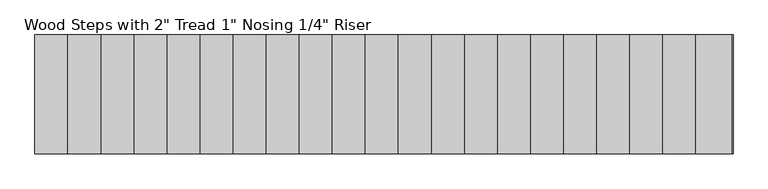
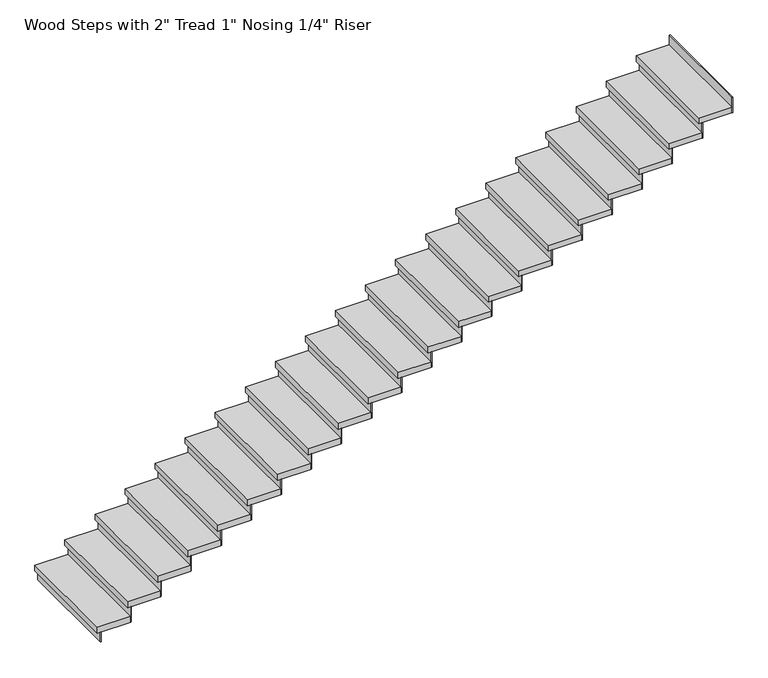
"""IFC4 building model written with IfcOpenShell, lengths in millimetres: stair flight geometry."""

from ifc_helpers import new_model, si_unit, frame, origin, origin_with_axes, place, context, project, spatial, polyline, outline, extrude, source, transform, mapped, element, save


def stair_flight_0de24507(model_context):
    return source(origin(), model_context, "Body", "SweptSolid", [
        extrude(outline(polyline([(-11443.6145607, 6523.6177722), (-11449.9645607, 6523.6177722), (-11449.9645607, 7438.0177722), (-11443.6145607, 7438.0177722), (-11443.6145607, 6523.6177722)])), origin_with_axes(), (0.0, 0.0, 1.0), 87.7454545),
        extrude(outline(polyline([(-11195.9645607, 7438.0177722), (-11195.9645607, 6523.6177722), (-11475.3645607, 6523.6177722), (-11475.3645607, 7438.0177722), (-11195.9645607, 7438.0177722)])), frame((0.0, 0.0, 87.7454545), z_axis=(0.0, 0.0, 1.0), x_axis=(1.0, 0.0, 0.0)), (0.0, 0.0, 1.0), 50.8),
        extrude(outline(polyline([(-11189.6145607, 6523.6177722), (-11195.9645607, 6523.6177722), (-11195.9645607, 7438.0177722), (-11189.6145607, 7438.0177722), (-11189.6145607, 6523.6177722)])), frame((0.0, 0.0, 87.7454545), z_axis=(0.0, 0.0, 1.0), x_axis=(1.0, 0.0, 0.0)), (0.0, 0.0, 1.0), 138.5454545),
        extrude(outline(polyline([(-10941.9645607, 7438.0177722), (-10941.9645607, 6523.6177722), (-11221.3645607, 6523.6177722), (-11221.3645607, 7438.0177722), (-10941.9645607, 7438.0177722)])), frame((0.0, 0.0, 226.2909091), z_axis=(0.0, 0.0, 1.0), x_axis=(1.0, 0.0, 0.0)), (0.0, 0.0, 1.0), 50.8),
        extrude(outline(polyline([(-10935.6145607, 6523.6177722), (-10941.9645607, 6523.6177722), (-10941.9645607, 7438.0177722), (-10935.6145607, 7438.0177722), (-10935.6145607, 6523.6177722)])), frame((0.0, 0.0, 226.2909091), z_axis=(0.0, 0.0, 1.0), x_axis=(1.0, 0.0, 0.0)), (0.0, 0.0, 1.0), 138.5454545),
        extrude(outline(polyline([(-10687.9645607, 7438.0177722), (-10687.9645607, 6523.6177722), (-10967.3645607, 6523.6177722), (-10967.3645607, 7438.0177722), (-10687.9645607, 7438.0177722)])), frame((0.0, 0.0, 364.8363636), z_axis=(0.0, 0.0, 1.0), x_axis=(1.0, 0.0, 0.0)), (0.0, 0.0, 1.0), 50.8),
        extrude(outline(polyline([(-10681.6145607, 6523.6177722), (-10687.9645607, 6523.6177722), (-10687.9645607, 7438.0177722), (-10681.6145607, 7438.0177722), (-10681.6145607, 6523.6177722)])), frame((0.0, 0.0, 364.8363636), z_axis=(0.0, 0.0, 1.0), x_axis=(1.0, 0.0, 0.0)), (0.0, 0.0, 1.0), 138.5454545),
        extrude(outline(polyline([(-10433.9645607, 7438.0177722), (-10433.9645607, 6523.6177722), (-10713.3645607, 6523.6177722), (-10713.3645607, 7438.0177722), (-10433.9645607, 7438.0177722)])), frame((0.0, 0.0, 503.3818182), z_axis=(0.0, 0.0, 1.0), x_axis=(1.0, 0.0, 0.0)), (0.0, 0.0, 1.0), 50.8),
        extrude(outline(polyline([(-10427.6145607, 6523.6177722), (-10433.9645607, 6523.6177722), (-10433.9645607, 7438.0177722), (-10427.6145607, 7438.0177722), (-10427.6145607, 6523.6177722)])), frame((0.0, 0.0, 503.3818182), z_axis=(0.0, 0.0, 1.0), x_axis=(1.0, 0.0, 0.0)), (0.0, 0.0, 1.0), 138.5454545),
        extrude(outline(polyline([(-10179.9645607, 7438.0177722), (-10179.9645607, 6523.6177722), (-10459.3645607, 6523.6177722), (-10459.3645607, 7438.0177722), (-10179.9645607, 7438.0177722)])), frame((0.0, 0.0, 641.9272727), z_axis=(0.0, 0.0, 1.0), x_axis=(1.0, 0.0, 0.0)), (0.0, 0.0, 1.0), 50.8),
        extrude(outline(polyline([(-10173.6145607, 6523.6177722), (-10179.9645607, 6523.6177722), (-10179.9645607, 7438.0177722), (-10173.6145607, 7438.0177722), (-10173.6145607, 6523.6177722)])), frame((0.0, 0.0, 641.9272727), z_axis=(0.0, 0.0, 1.0), x_axis=(1.0, 0.0, 0.0)), (0.0, 0.0, 1.0), 138.5454545),
        extrude(outline(polyline([(-9925.9645607, 7438.0177722), (-9925.9645607, 6523.6177722), (-10205.3645607, 6523.6177722), (-10205.3645607, 7438.0177722), (-9925.9645607, 7438.0177722)])), frame((0.0, 0.0, 780.4727273), z_axis=(0.0, 0.0, 1.0), x_axis=(1.0, 0.0, 0.0)), (0.0, 0.0, 1.0), 50.8),
        extrude(outline(polyline([(-9919.6145607, 6523.6177722), (-9925.9645607, 6523.6177722), (-9925.9645607, 7438.0177722), (-9919.6145607, 7438.0177722), (-9919.6145607, 6523.6177722)])), frame((0.0, 0.0, 780.4727273), z_axis=(0.0, 0.0, 1.0), x_axis=(1.0, 0.0, 0.0)), (0.0, 0.0, 1.0), 138.5454545),
        extrude(outline(polyline([(-9671.9645607, 7438.0177722), (-9671.9645607, 6523.6177722), (-9951.3645607, 6523.6177722), (-9951.3645607, 7438.0177722), (-9671.9645607, 7438.0177722)])), frame((0.0, 0.0, 919.0181818), z_axis=(0.0, 0.0, 1.0), x_axis=(1.0, 0.0, 0.0)), (0.0, 0.0, 1.0), 50.8),
        extrude(outline(polyline([(-9665.6145607, 6523.6177722), (-9671.9645607, 6523.6177722), (-9671.9645607, 7438.0177722), (-9665.6145607, 7438.0177722), (-9665.6145607, 6523.6177722)])), frame((0.0, 0.0, 919.0181818), z_axis=(0.0, 0.0, 1.0), x_axis=(1.0, 0.0, 0.0)), (0.0, 0.0, 1.0), 138.5454545),
        extrude(outline(polyline([(-9417.9645607, 7438.0177722), (-9417.9645607, 6523.6177722), (-9697.3645607, 6523.6177722), (-9697.3645607, 7438.0177722), (-9417.9645607, 7438.0177722)])), frame((0.0, 0.0, 1057.5636364), z_axis=(0.0, 0.0, 1.0), x_axis=(1.0, 0.0, 0.0)), (0.0, 0.0, 1.0), 50.8),
        extrude(outline(polyline([(-9411.6145607, 6523.6177722), (-9417.9645607, 6523.6177722), (-9417.9645607, 7438.0177722), (-9411.6145607, 7438.0177722), (-9411.6145607, 6523.6177722)])), frame((0.0, 0.0, 1057.5636364), z_axis=(0.0, 0.0, 1.0), x_axis=(1.0, 0.0, 0.0)), (0.0, 0.0, 1.0), 138.5454545),
        extrude(outline(polyline([(-9163.9645607, 7438.0177722), (-9163.9645607, 6523.6177722), (-9443.3645607, 6523.6177722), (-9443.3645607, 7438.0177722), (-9163.9645607, 7438.0177722)])), frame((0.0, 0.0, 1196.1090909), z_axis=(0.0, 0.0, 1.0), x_axis=(1.0, 0.0, 0.0)), (0.0, 0.0, 1.0), 50.8),
        extrude(outline(polyline([(-9157.6145607, 6523.6177722), (-9163.9645607, 6523.6177722), (-9163.9645607, 7438.0177722), (-9157.6145607, 7438.0177722), (-9157.6145607, 6523.6177722)])), frame((0.0, 0.0, 1196.1090909), z_axis=(0.0, 0.0, 1.0), x_axis=(1.0, 0.0, 0.0)), (0.0, 0.0, 1.0), 138.5454545),
        extrude(outline(polyline([(-8909.9645607, 7438.0177722), (-8909.9645607, 6523.6177722), (-9189.3645607, 6523.6177722), (-9189.3645607, 7438.0177722), (-8909.9645607, 7438.0177722)])), frame((0.0, 0.0, 1334.6545455), z_axis=(0.0, 0.0, 1.0), x_axis=(1.0, 0.0, 0.0)), (0.0, 0.0, 1.0), 50.8),
        extrude(outline(polyline([(-8903.6145607, 6523.6177722), (-8909.9645607, 6523.6177722), (-8909.9645607, 7438.0177722), (-8903.6145607, 7438.0177722), (-8903.6145607, 6523.6177722)])), frame((0.0, 0.0, 1334.6545455), z_axis=(0.0, 0.0, 1.0), x_axis=(1.0, 0.0, 0.0)), (0.0, 0.0, 1.0), 138.5454545),
        extrude(outline(polyline([(-8655.9645607, 7438.0177722), (-8655.9645607, 6523.6177722), (-8935.3645607, 6523.6177722), (-8935.3645607, 7438.0177722), (-8655.9645607, 7438.0177722)])), frame((0.0, 0.0, 1473.2), z_axis=(0.0, 0.0, 1.0), x_axis=(1.0, 0.0, 0.0)), (0.0, 0.0, 1.0), 50.8),
        extrude(outline(polyline([(-8649.6145607, 6523.6177722), (-8655.9645607, 6523.6177722), (-8655.9645607, 7438.0177722), (-8649.6145607, 7438.0177722), (-8649.6145607, 6523.6177722)])), frame((0.0, 0.0, 1473.2), z_axis=(0.0, 0.0, 1.0), x_axis=(1.0, 0.0, 0.0)), (0.0, 0.0, 1.0), 138.5454545),
        extrude(outline(polyline([(-8401.9645607, 7438.0177722), (-8401.9645607, 6523.6177722), (-8681.3645607, 6523.6177722), (-8681.3645607, 7438.0177722), (-8401.9645607, 7438.0177722)])), frame((0.0, 0.0, 1611.7454545), z_axis=(0.0, 0.0, 1.0), x_axis=(1.0, 0.0, 0.0)), (0.0, 0.0, 1.0), 50.8),
        extrude(outline(polyline([(-8395.6145607, 6523.6177722), (-8401.9645607, 6523.6177722), (-8401.9645607, 7438.0177722), (-8395.6145607, 7438.0177722), (-8395.6145607, 6523.6177722)])), frame((0.0, 0.0, 1611.7454545), z_axis=(0.0, 0.0, 1.0), x_axis=(1.0, 0.0, 0.0)), (0.0, 0.0, 1.0), 138.5454545),
        extrude(outline(polyline([(-8147.9645607, 7438.0177722), (-8147.9645607, 6523.6177722), (-8427.3645607, 6523.6177722), (-8427.3645607, 7438.0177722), (-8147.9645607, 7438.0177722)])), frame((0.0, 0.0, 1750.2909091), z_axis=(0.0, 0.0, 1.0), x_axis=(1.0, 0.0, 0.0)), (0.0, 0.0, 1.0), 50.8),
        extrude(outline(polyline([(-8141.6145607, 6523.6177722), (-8147.9645607, 6523.6177722), (-8147.9645607, 7438.0177722), (-8141.6145607, 7438.0177722), (-8141.6145607, 6523.6177722)])), frame((0.0, 0.0, 1750.2909091), z_axis=(0.0, 0.0, 1.0), x_axis=(1.0, 0.0, 0.0)), (0.0, 0.0, 1.0), 138.5454545),
        extrude(outline(polyline([(-7893.9645607, 7438.0177722), (-7893.9645607, 6523.6177722), (-8173.3645607, 6523.6177722), (-8173.3645607, 7438.0177722), (-7893.9645607, 7438.0177722)])), frame((0.0, 0.0, 1888.8363636), z_axis=(0.0, 0.0, 1.0), x_axis=(1.0, 0.0, 0.0)), (0.0, 0.0, 1.0), 50.8),
        extrude(outline(polyline([(-7887.6145607, 6523.6177722), (-7893.9645607, 6523.6177722), (-7893.9645607, 7438.0177722), (-7887.6145607, 7438.0177722), (-7887.6145607, 6523.6177722)])), frame((0.0, 0.0, 1888.8363636), z_axis=(0.0, 0.0, 1.0), x_axis=(1.0, 0.0, 0.0)), (0.0, 0.0, 1.0), 138.5454545),
        extrude(outline(polyline([(-7639.9645607, 7438.0177722), (-7639.9645607, 6523.6177722), (-7919.3645607, 6523.6177722), (-7919.3645607, 7438.0177722), (-7639.9645607, 7438.0177722)])), frame((0.0, 0.0, 2027.3818182), z_axis=(0.0, 0.0, 1.0), x_axis=(1.0, 0.0, 0.0)), (0.0, 0.0, 1.0), 50.8),
        extrude(outline(polyline([(-7633.6145607, 6523.6177722), (-7639.9645607, 6523.6177722), (-7639.9645607, 7438.0177722), (-7633.6145607, 7438.0177722), (-7633.6145607, 6523.6177722)])), frame((0.0, 0.0, 2027.3818182), z_axis=(0.0, 0.0, 1.0), x_axis=(1.0, 0.0, 0.0)), (0.0, 0.0, 1.0), 138.5454545),
        extrude(outline(polyline([(-7385.9645607, 7438.0177722), (-7385.9645607, 6523.6177722), (-7665.3645607, 6523.6177722), (-7665.3645607, 7438.0177722), (-7385.9645607, 7438.0177722)])), frame((0.0, 0.0, 2165.9272727), z_axis=(0.0, 0.0, 1.0), x_axis=(1.0, 0.0, 0.0)), (0.0, 0.0, 1.0), 50.8),
        extrude(outline(polyline([(-7379.6145607, 6523.6177722), (-7385.9645607, 6523.6177722), (-7385.9645607, 7438.0177722), (-7379.6145607, 7438.0177722), (-7379.6145607, 6523.6177722)])), frame((0.0, 0.0, 2165.9272727), z_axis=(0.0, 0.0, 1.0), x_axis=(1.0, 0.0, 0.0)), (0.0, 0.0, 1.0), 138.5454545),
        extrude(outline(polyline([(-7131.9645607, 7438.0177722), (-7131.9645607, 6523.6177722), (-7411.3645607, 6523.6177722), (-7411.3645607, 7438.0177722), (-7131.9645607, 7438.0177722)])), frame((0.0, 0.0, 2304.4727273), z_axis=(0.0, 0.0, 1.0), x_axis=(1.0, 0.0, 0.0)), (0.0, 0.0, 1.0), 50.8),
        extrude(outline(polyline([(-7125.6145607, 6523.6177722), (-7131.9645607, 6523.6177722), (-7131.9645607, 7438.0177722), (-7125.6145607, 7438.0177722), (-7125.6145607, 6523.6177722)])), frame((0.0, 0.0, 2304.4727273), z_axis=(0.0, 0.0, 1.0), x_axis=(1.0, 0.0, 0.0)), (0.0, 0.0, 1.0), 138.5454545),
        extrude(outline(polyline([(-6877.9645607, 7438.0177722), (-6877.9645607, 6523.6177722), (-7157.3645607, 6523.6177722), (-7157.3645607, 7438.0177722), (-6877.9645607, 7438.0177722)])), frame((0.0, 0.0, 2443.0181818), z_axis=(0.0, 0.0, 1.0), x_axis=(1.0, 0.0, 0.0)), (0.0, 0.0, 1.0), 50.8),
        extrude(outline(polyline([(-6871.6145607, 6523.6177722), (-6877.9645607, 6523.6177722), (-6877.9645607, 7438.0177722), (-6871.6145607, 7438.0177722), (-6871.6145607, 6523.6177722)])), frame((0.0, 0.0, 2443.0181818), z_axis=(0.0, 0.0, 1.0), x_axis=(1.0, 0.0, 0.0)), (0.0, 0.0, 1.0), 138.5454545),
        extrude(outline(polyline([(-6623.9645607, 7438.0177722), (-6623.9645607, 6523.6177722), (-6903.3645607, 6523.6177722), (-6903.3645607, 7438.0177722), (-6623.9645607, 7438.0177722)])), frame((0.0, 0.0, 2581.5636364), z_axis=(0.0, 0.0, 1.0), x_axis=(1.0, 0.0, 0.0)), (0.0, 0.0, 1.0), 50.8),
        extrude(outline(polyline([(-6617.6145607, 6523.6177722), (-6623.9645607, 6523.6177722), (-6623.9645607, 7438.0177722), (-6617.6145607, 7438.0177722), (-6617.6145607, 6523.6177722)])), frame((0.0, 0.0, 2581.5636364), z_axis=(0.0, 0.0, 1.0), x_axis=(1.0, 0.0, 0.0)), (0.0, 0.0, 1.0), 138.5454545),
        extrude(outline(polyline([(-6369.9645607, 7438.0177722), (-6369.9645607, 6523.6177722), (-6649.3645607, 6523.6177722), (-6649.3645607, 7438.0177722), (-6369.9645607, 7438.0177722)])), frame((0.0, 0.0, 2720.1090909), z_axis=(0.0, 0.0, 1.0), x_axis=(1.0, 0.0, 0.0)), (0.0, 0.0, 1.0), 50.8),
        extrude(outline(polyline([(-6363.6145607, 6523.6177722), (-6369.9645607, 6523.6177722), (-6369.9645607, 7438.0177722), (-6363.6145607, 7438.0177722), (-6363.6145607, 6523.6177722)])), frame((0.0, 0.0, 2720.1090909), z_axis=(0.0, 0.0, 1.0), x_axis=(1.0, 0.0, 0.0)), (0.0, 0.0, 1.0), 138.5454545),
        extrude(outline(polyline([(-6109.6145607, 6523.6177722), (-6115.9645607, 6523.6177722), (-6115.9645607, 7438.0177722), (-6109.6145607, 7438.0177722), (-6109.6145607, 6523.6177722)])), frame((0.0, 0.0, 2858.6545455), z_axis=(0.0, 0.0, 1.0), x_axis=(1.0, 0.0, 0.0)), (0.0, 0.0, 1.0), 138.5454545),
        extrude(outline(polyline([(-6115.9645607, 7438.0177722), (-6115.9645607, 6523.6177722), (-6395.3645607, 6523.6177722), (-6395.3645607, 7438.0177722), (-6115.9645607, 7438.0177722)])), frame((0.0, 0.0, 2858.6545455), z_axis=(0.0, 0.0, 1.0), x_axis=(1.0, 0.0, 0.0)), (0.0, 0.0, 1.0), 50.8),
    ])


if __name__ == "__main__":
    model = new_model("IFC4")
    model_context = context("Model", 3, world=origin())
    ifc_project = project(units=[si_unit("LENGTHUNIT", "METRE", prefix="MILLI")], contexts=[model_context])
    site = spatial("IfcSite", under=ifc_project)
    building = spatial("IfcBuilding", under=site)
    placement = place(None, origin())
    stair_flight_shape = stair_flight_0de24507(model_context)
    element("IfcStairFlight", 1, ObjectType="Wood Steps with 2\" Tread 1\" Nosing 1/4\" Riser", at=placement, inside=building, context=model_context, shape_type="MappedRepresentation", body=[
        mapped(stair_flight_shape, transform((0.0, 0.0, 0.0), x_axis=(1.0, 0.0, 0.0), y_axis=(0.0, 1.0, 0.0), z_axis=(0.0, 0.0, 1.0))),
    ])
    save(model, "model.ifc")
